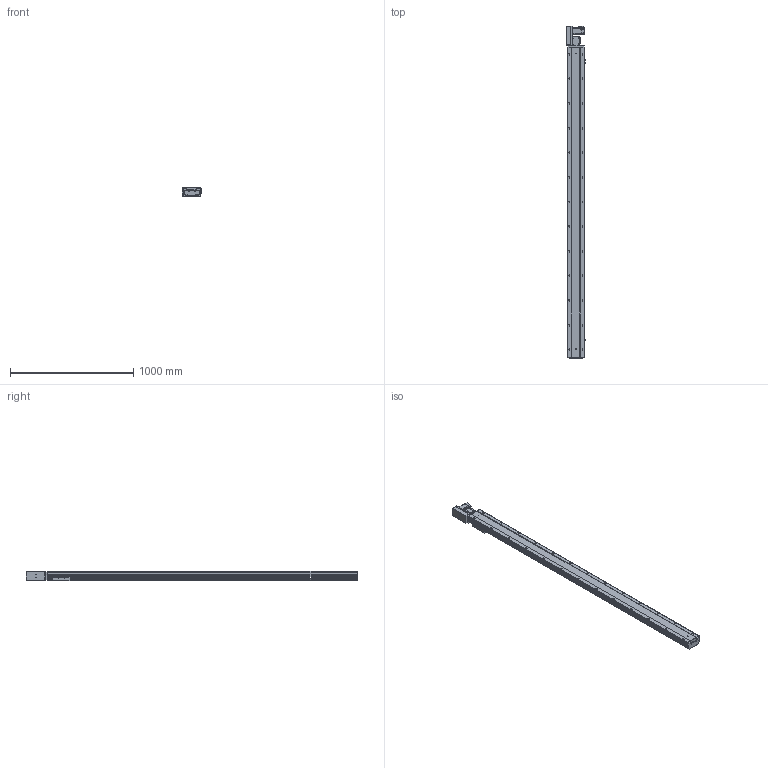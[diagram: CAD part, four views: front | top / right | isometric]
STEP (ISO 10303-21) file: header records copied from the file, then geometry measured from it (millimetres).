
FILE_DESCRIPTION (( 'STEP AP203' ), '1' );
FILE_NAME ('225.STEP', '2022-07-20T11:30:50', ( '' ), ( '' ), 'SwSTEP 2.0', 'SolidWorks 2016', '' );
FILE_SCHEMA (( 'CONFIG_CONTROL_DESIGN' ));
Length unit declared in the file: millimetre
Products named in the file (10): BTB14-L-23; BTB14-L-菁釱_XD; BTB14-L-04; BTB14-L-01; BTB14-L-06; 225; BTB14-L-M40; BTB14-L-24; BTB14-L-02; BTB14-L-HZ
Assembly tree (12 placements, depth 2):
  225
    BTB14-L-菁釱_XD
    BTB14-L-01
    BTB14-L-02
    BTB14-L-04  x3
    BTB14-L-06
    BTB14-L-23  x2
    BTB14-L-24
    BTB14-L-HZ
    BTB14-L-M40
Bounding box: 160.7 x 2693.5 x 78 mm (x, y, z)
Volume: 11315390.6 mm3; surface area: 2334922.1 mm2
Topology: 22 solids, 22 shells, 1690 faces, 4469 edges, 2836 vertices
Faces by surface type: plane 937, cylinder 512, cone 152, bspline 77, torus 12
Entity records: 45046 total; most frequent: CARTESIAN_POINT 10947, DIRECTION 6828, ORIENTED_EDGE 6804, EDGE_CURVE 3402, LINE 2278, VECTOR 2278, AXIS2_PLACEMENT_3D 2275, VERTEX_POINT 2214
